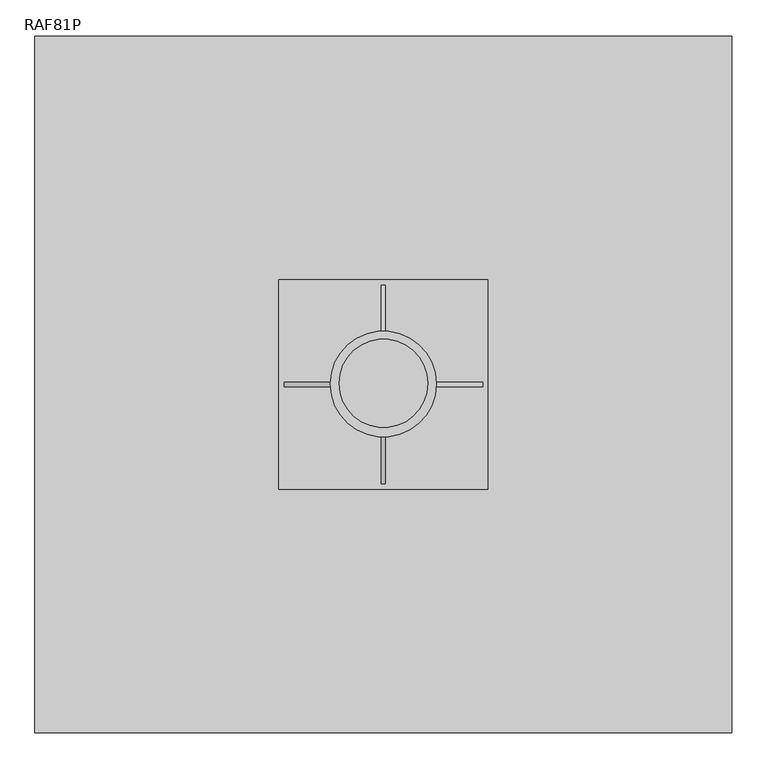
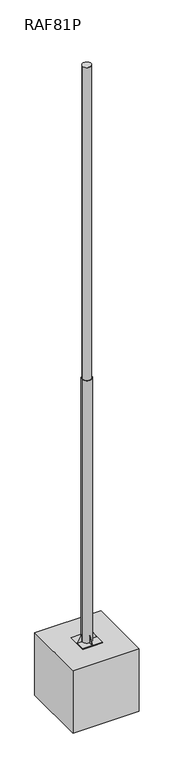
"""IFC4 building model written with IfcOpenShell, lengths in millimetres: light fixture geometry, CANDELA_CNF_RAF : RAF81P."""

import ifcopenshell
import ifcopenshell.guid

model = None  # the IFC model being written
_history = None  # IfcOwnerHistory: only IFC2X3 demands one
_inside = {}  # id of a spatial element -> (the spatial element, [elements in it])
_under = {}  # id of a project, library or spatial element -> (it, [spatial elements below it])
_declared = {}  # id of a project -> (the project, [libraries it declares])
_typed = {}  # id of a type object -> (the type object, [elements of that type])
_made_of = {}  # id of a material, layer set ... -> (it, [elements and type objects made of it])


def new_model(schema):
    """Start an empty IFC model of exactly this schema.

    Asked for "IFC4X3", IfcOpenShell would pick the latest addendum, in which some entities
    have other attributes; the version numbers below select the first issue.
    IFC2X3 requires an IfcOwnerHistory on every rooted entity: one is made here for all.
    """
    global model, _history
    if schema == "IFC4X3":
        model = ifcopenshell.file(schema_version=(4, 3, 0, 0))
    else:
        model = ifcopenshell.file(schema=schema)
    _inside.clear()
    _under.clear()
    _declared.clear()
    _typed.clear()
    _made_of.clear()
    _history = None
    if model.schema == "IFC2X3":
        org = make("IfcOrganization", Name="unknown")
        user = make(
            "IfcPersonAndOrganization",
            ThePerson=make("IfcPerson", FamilyName="unknown"),
            TheOrganization=org,
        )
        app = make(
            "IfcApplication",
            ApplicationDeveloper=org,
            Version="unknown",
            ApplicationFullName="unknown",
            ApplicationIdentifier="unknown",
        )
        _history = make(
            "IfcOwnerHistory",
            OwningUser=user,
            OwningApplication=app,
            ChangeAction="ADDED",
            CreationDate=0,
        )
    return model


def make(cls, **values):
    """One entity of the class cls with the attributes given. An attribute that is None is left unset."""
    return model.create_entity(
        cls, **{name: value for name, value in values.items() if value is not None}
    )


def rooted(cls, **values):
    """An entity with a GlobalId (a new one), such as an element, a storey or a relation."""
    return make(cls, GlobalId=ifcopenshell.guid.new(), OwnerHistory=_history, **values)


def si_unit(unit_type, name, prefix=None):
    """IfcSIUnit, for example si_unit("LENGTHUNIT", "METRE", prefix="MILLI")."""
    return make("IfcSIUnit", UnitType=unit_type, Prefix=prefix, Name=name)


def assignment(units):
    """IfcUnitAssignment: the units of a project."""
    return None if units is None else make("IfcUnitAssignment", Units=units)


def point(xyz):
    """IfcCartesianPoint."""
    return None if xyz is None else make("IfcCartesianPoint", Coordinates=xyz)


def direction(xyz):
    """IfcDirection."""
    return None if xyz is None else make("IfcDirection", DirectionRatios=xyz)


def frame(location, z_axis=None, x_axis=None):
    """IfcAxis2Placement3D, a coordinate frame: its origin and axes. An axis left out is left unset."""
    return make(
        "IfcAxis2Placement3D",
        Location=point(location),
        Axis=direction(z_axis),
        RefDirection=direction(x_axis),
    )


def frame_2d(location, x_axis=None):
    """IfcAxis2Placement2D, a coordinate frame in the plane: its origin and x axis."""
    return make(
        "IfcAxis2Placement2D", Location=point(location), RefDirection=direction(x_axis)
    )


def origin():
    """The frame at (0, 0, 0) with its axes left unset."""
    return frame((0.0, 0.0, 0.0))


def origin_2d():
    """The frame at (0, 0) in the plane with its x axis left unset."""
    return frame_2d((0.0, 0.0))


def place(relative_to, where):
    """IfcLocalPlacement: puts the frame where relative to a parent placement (None: the world)."""
    return make(
        "IfcLocalPlacement", PlacementRelTo=relative_to, RelativePlacement=where
    )


def context(
    kind, dimensions, precision=None, world=None, true_north=None, identifier=None
):
    """IfcGeometricRepresentationContext, for example the 3D "Model" context."""
    return make(
        "IfcGeometricRepresentationContext",
        ContextIdentifier=identifier,
        ContextType=kind,
        CoordinateSpaceDimension=dimensions,
        Precision=precision,
        WorldCoordinateSystem=world,
        TrueNorth=true_north,
    )


def project(units=None, contexts=None):
    """IfcProject with its units and contexts."""
    return rooted(
        "IfcProject",
        Name="project",
        RepresentationContexts=contexts,
        UnitsInContext=assignment(units),
    )


def spatial(cls, under=None, at=None, **own):
    """A site, building, storey or space (cls), placed at a placement, below another one or the project."""
    s = rooted(cls, ObjectPlacement=at, **own)
    if under is not None:
        _under.setdefault(under.id(), (under, []))[1].append(s)
    return s


def polyline(points):
    """IfcPolyline through the points."""
    return make("IfcPolyline", Points=[point(p) for p in points])


def circle_curve(where, radius):
    """IfcCircle in the frame where."""
    return make("IfcCircle", Position=where, Radius=radius)


def trimmed(basis, trim1, trim2, sense, master):
    """IfcTrimmedCurve: the piece of a basis curve between two trims."""
    return make(
        "IfcTrimmedCurve",
        BasisCurve=basis,
        Trim1=trim1,
        Trim2=trim2,
        SenseAgreement=sense,
        MasterRepresentation=master,
    )


def segment(curve, same_sense, transition):
    """IfcCompositeCurveSegment."""
    return make(
        "IfcCompositeCurveSegment",
        Transition=transition,
        SameSense=same_sense,
        ParentCurve=curve,
    )


def composite_curve(segments, self_intersect=None):
    """IfcCompositeCurve: segments joined end to end."""
    return make("IfcCompositeCurve", Segments=segments, SelfIntersect=self_intersect)


def outline(outer, holes=None, kind="AREA"):
    """IfcArbitraryClosedProfileDef: a profile drawn as a closed curve; with holes, ...WithVoids."""
    if holes is None:
        return make("IfcArbitraryClosedProfileDef", ProfileType=kind, OuterCurve=outer)
    return make(
        "IfcArbitraryProfileDefWithVoids",
        ProfileType=kind,
        OuterCurve=outer,
        InnerCurves=holes,
    )


def extrude(swept, where, along, depth):
    """IfcExtrudedAreaSolid: the profile swept, set in the frame where, extruded along a direction by depth."""
    return make(
        "IfcExtrudedAreaSolid",
        SweptArea=swept,
        Position=where,
        ExtrudedDirection=direction(along),
        Depth=depth,
    )


def shape(context_of_items, identifier, shape_type, items):
    """IfcShapeRepresentation: the items that make up one representation, for example the "Body"."""
    return make(
        "IfcShapeRepresentation",
        ContextOfItems=context_of_items,
        RepresentationIdentifier=identifier,
        RepresentationType=shape_type,
        Items=items,
    )


def source(mapping_origin, context_of_items, identifier, shape_type, items):
    """IfcRepresentationMap: a shape defined once, which mapped items show again and again."""
    return make(
        "IfcRepresentationMap",
        MappingOrigin=mapping_origin,
        MappedRepresentation=shape(context_of_items, identifier, shape_type, items),
    )


def transform(
    local_origin,
    x_axis=None,
    y_axis=None,
    z_axis=None,
    scale=None,
    scale2=None,
    scale3=None,
    uniform=True,
):
    """IfcCartesianTransformationOperator3D, or its non-uniform kind. x_axis, y_axis, z_axis: its Axis1, 2, 3."""
    if uniform:
        return make(
            "IfcCartesianTransformationOperator3D",
            Axis1=direction(x_axis),
            Axis2=direction(y_axis),
            LocalOrigin=point(local_origin),
            Scale=scale,
            Axis3=direction(z_axis),
        )
    return make(
        "IfcCartesianTransformationOperator3DnonUniform",
        Axis1=direction(x_axis),
        Axis2=direction(y_axis),
        LocalOrigin=point(local_origin),
        Scale=scale,
        Axis3=direction(z_axis),
        Scale2=scale2,
        Scale3=scale3,
    )


def mapped(mapping_source, mapping_target):
    """IfcMappedItem: shows the shape of a source again, moved by a transform."""
    return make(
        "IfcMappedItem", MappingSource=mapping_source, MappingTarget=mapping_target
    )


def made_of(thing, what):
    """Note that an element or type object is made of a material, layer set ...; save() writes the relation."""
    if what is not None:
        _made_of.setdefault(what.id(), (what, []))[1].append(thing)
    return thing


def element(
    cls,
    number,
    at=None,
    inside=None,
    cuts=None,
    type_object=None,
    material=None,
    context=None,
    identifier="Body",
    shape_type=None,
    held_by="IfcProductDefinitionShape",
    body=None,
    shapes=None,
    **own,
):
    """One element of the class cls, such as IfcWall. Its Tag is "e" and its number.

    at: its placement. inside: the storey or other place that contains it. cuts: it is an
    opening in that element (IfcRelVoidsElement). A single representation is given by context,
    identifier, shape_type and body (its items); several are given by shapes. held_by: the class
    of the entity that holds the representations. save() writes the other relations.
    """
    e = rooted(cls, Tag="e%d" % number, ObjectPlacement=at, **own)
    if body is not None:
        shapes = [shape(context, identifier, shape_type, body)]
    if shapes is not None:
        e.Representation = make(held_by, Representations=shapes)
    if inside is not None:
        _inside.setdefault(inside.id(), (inside, []))[1].append(e)
    if cuts is not None:
        rooted(
            "IfcRelVoidsElement", RelatingBuildingElement=cuts, RelatedOpeningElement=e
        )
    if type_object is not None:
        _typed.setdefault(type_object.id(), (type_object, []))[1].append(e)
    return made_of(e, material)


def aggregate(whole, parts):
    """IfcRelAggregates: a whole, such as a stair, and the parts it consists of."""
    return rooted("IfcRelAggregates", RelatingObject=whole, RelatedObjects=parts)


def save(model, path):
    """Write the relations noted so far, then the file.

    IfcRelAggregates (storeys below a building ...), IfcRelContainedInSpatialStructure (elements
    in a storey), IfcRelDefinesByType, IfcRelAssociatesMaterial and IfcRelDeclares: one each for
    every whole, place, type object, material and project.
    """
    for whole, parts in _under.values():
        aggregate(whole, parts)
    for where, things in _inside.values():
        rooted(
            "IfcRelContainedInSpatialStructure",
            RelatedElements=things,
            RelatingStructure=where,
        )
    for kind, things in _typed.values():
        rooted("IfcRelDefinesByType", RelatedObjects=things, RelatingType=kind)
    for what, things in _made_of.values():
        rooted("IfcRelAssociatesMaterial", RelatedObjects=things, RelatingMaterial=what)
    for by, libraries in _declared.values():
        rooted("IfcRelDeclares", RelatingContext=by, RelatedDefinitions=libraries)
    model.write(path)


def raf81p_6bf53c42(model_context):
    return source(origin(), model_context, "Body", "SweptSolid", [
        extrude(outline(polyline([(500.0, 500.0), (500.0, -500.0), (-500.0, -500.0), (-500.0, 500.0), (500.0, 500.0)])), frame((0.0, 0.0, -1200.0), z_axis=(0.0, 0.0, 1.0), x_axis=(1.0, 0.0, 0.0)), (0.0, 0.0, 1.0), 1000.0),
        extrude(outline(composite_curve([segment(trimmed(circle_curve(origin_2d(), 76.0), [point((-76.0, 0.0))], [point((76.0, 0.0))], False, "CARTESIAN"), True, "CONTINUOUS"), segment(trimmed(circle_curve(origin_2d(), 76.0), [point((76.0, 0.0))], [point((-76.0, 0.0))], False, "CARTESIAN"), True, "CONTINUOUS")], self_intersect=False)), frame((0.0, 0.0, -190.0), z_axis=(0.0, 0.0, 1.0), x_axis=(1.0, 0.0, 0.0)), (0.0, 0.0, 1.0), 4190.0),
        extrude(outline(polyline([(57.15, -40.0), (142.65, -190.0), (79.9181562, -190.0), (57.15, -150.0558663), (57.15, -40.0)])), frame((-3.0, 0.0, 0.0), z_axis=(1.0, 0.0, 0.0), x_axis=(0.0, 1.0, 0.0)), (0.0, 0.0, 1.0), 6.0),
        extrude(outline(polyline([(-57.15, -40.0), (-57.15, -150.0558663), (-79.9181562, -190.0), (-142.65, -190.0), (-57.15, -40.0)])), frame((-3.0, 0.0, 0.0), z_axis=(1.0, 0.0, 0.0), x_axis=(0.0, 1.0, 0.0)), (0.0, 0.0, 1.0), 6.0),
        extrude(outline(polyline([(-40.0, -57.15), (-190.0, -142.65), (-190.0, -79.9181562), (-150.0558663, -57.15), (-40.0, -57.15)])), frame((0.0, -3.0, 0.0), z_axis=(0.0, 1.0, 0.0), x_axis=(0.0, 0.0, 1.0)), (0.0, 0.0, 1.0), 6.0),
        extrude(outline(polyline([(-40.0, 57.15), (-150.0558663, 57.15), (-190.0, 79.9181562), (-190.0, 142.65), (-40.0, 57.15)])), frame((0.0, -3.0, 0.0), z_axis=(0.0, 1.0, 0.0), x_axis=(0.0, 0.0, 1.0)), (0.0, 0.0, 1.0), 6.0),
        extrude(outline(composite_curve([segment(trimmed(circle_curve(origin_2d(), 63.5), [point((-63.5, 0.0))], [point((63.5, 0.0))], False, "CARTESIAN"), True, "CONTINUOUS"), segment(trimmed(circle_curve(origin_2d(), 63.5), [point((63.5, 0.0))], [point((-63.5, 0.0))], False, "CARTESIAN"), True, "CONTINUOUS")], self_intersect=False)), frame((0.0, 0.0, -190.0), z_axis=(0.0, 0.0, 1.0), x_axis=(1.0, 0.0, 0.0)), (0.0, 0.0, 1.0), 9190.0),
        extrude(outline(polyline([(150.0, 150.0), (150.0, -150.0), (-150.0, -150.0), (-150.0, 150.0), (150.0, 150.0)])), frame((0.0, 0.0, -200.0), z_axis=(0.0, 0.0, 1.0), x_axis=(1.0, 0.0, 0.0)), (0.0, 0.0, 1.0), 10.0),
    ])


if __name__ == "__main__":
    model = new_model("IFC4")
    model_context = context("Model", 3, world=origin())
    ifc_project = project(units=[si_unit("LENGTHUNIT", "METRE", prefix="MILLI")], contexts=[model_context])
    site = spatial("IfcSite", under=ifc_project)
    building = spatial("IfcBuilding", under=site)
    placement = place(None, origin())
    raf81p_shape = raf81p_6bf53c42(model_context)
    element("IfcLightFixture", 1, ObjectType="CANDELA_CNF_RAF : RAF81P", at=placement, inside=building, context=model_context, shape_type="MappedRepresentation", body=[
        mapped(raf81p_shape, transform((0.0, 0.0, 0.0), x_axis=(1.0, 0.0, 0.0), y_axis=(0.0, 1.0, 0.0), z_axis=(0.0, 0.0, 1.0))),
    ])
    save(model, "model.ifc")
